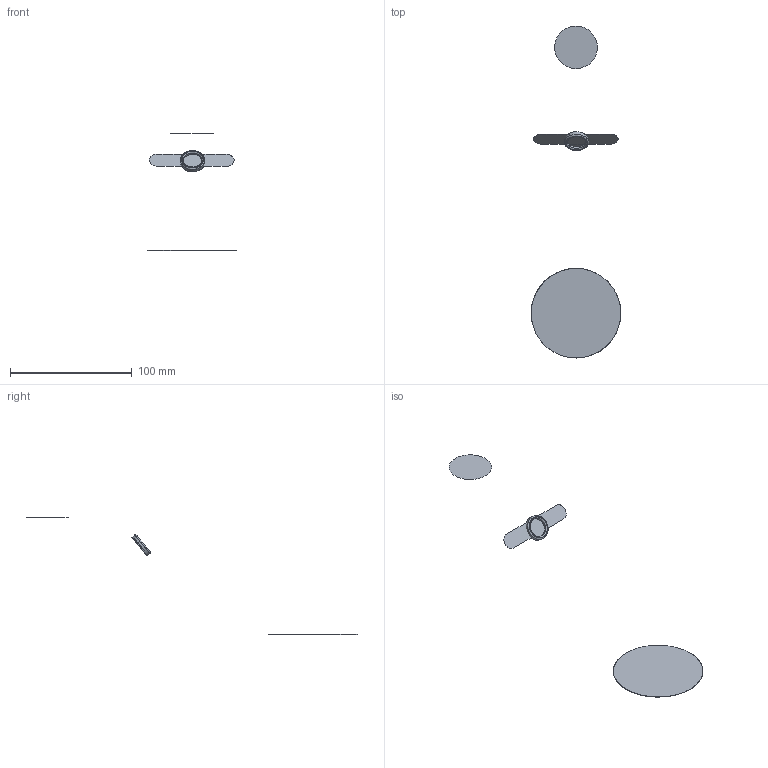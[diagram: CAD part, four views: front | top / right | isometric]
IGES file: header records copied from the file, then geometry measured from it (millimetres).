
Global section: file name: C:\Users\Massimiliano\Desktop\MOON completa\MOON R H15 90R art. 5509\MOON R H15 90R art. 5509.igs; native system: Rhinoceros ( Mar 28 2013 ); preprocessor: Trout Lake IGES 012 Mar 28 2013; date: 171222.082844; units: millimetre
Bounding box: 73.64 x 272.5 x 96.15 mm (x, y, z)
Surface area: 11214.3 mm2 (no closed solid volume)
Topology: 0 solids, 0 shells, 12 faces, 131 edges, 124 vertices
Faces by surface type: bspline 12
